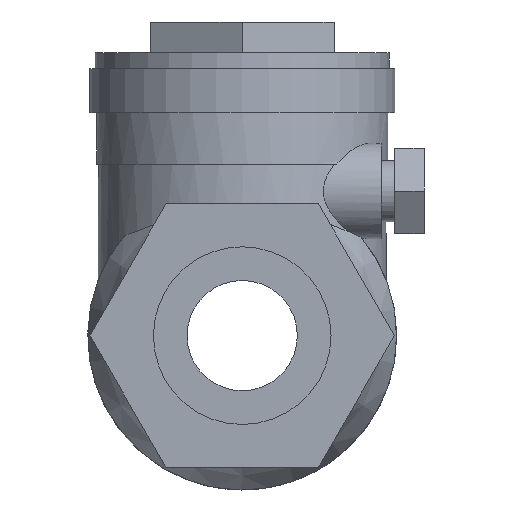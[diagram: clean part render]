
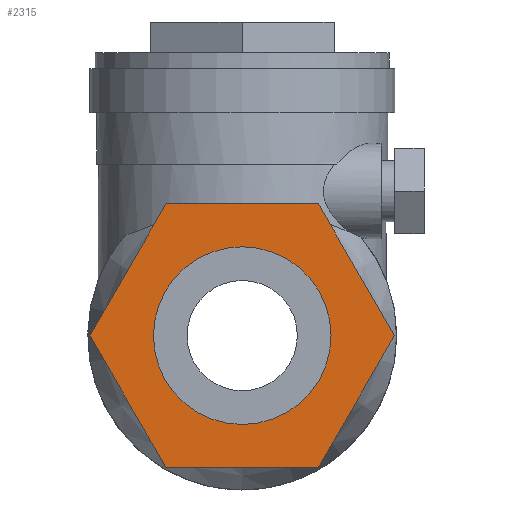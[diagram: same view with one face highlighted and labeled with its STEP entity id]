
A CAD part, left-side view. The second image highlights one B-rep face of the part: STEP entity #2315.
In plain terms, the highlighted planar face has unit normal (-1, 0, 0).
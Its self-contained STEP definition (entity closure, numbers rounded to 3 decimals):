
#1423 = CYLINDRICAL_SURFACE('',#1424,0.363);
#1424 = AXIS2_PLACEMENT_3D('',#1425,#1426,#1427);
#1425 = CARTESIAN_POINT('',(0.,0.,0.));
#1426 = DIRECTION('',(1.,0.,0.));
#1427 = DIRECTION('',(0.,-1.,0.));
#1448 = VERTEX_POINT('',#1449);
#1449 = CARTESIAN_POINT('',(0.,-0.363,0.));
#1469 = EDGE_CURVE('',#1448,#1448,#1470,.T.);
#1470 = SURFACE_CURVE('',#1471,(#1476,#1483),.PCURVE_S1.);
#1471 = CIRCLE('',#1472,0.363);
#1472 = AXIS2_PLACEMENT_3D('',#1473,#1474,#1475);
#1473 = CARTESIAN_POINT('',(0.,0.,0.));
#1474 = DIRECTION('',(1.,0.,0.));
#1475 = DIRECTION('',(0.,-1.,0.));
#1476 = PCURVE('',#1423,#1477);
#1477 = DEFINITIONAL_REPRESENTATION('',(#1478),#1482);
#1478 = LINE('',#1479,#1480);
#1479 = CARTESIAN_POINT('',(0.,0.));
#1480 = VECTOR('',#1481,1.);
#1481 = DIRECTION('',(1.,0.));
#1482 = ( GEOMETRIC_REPRESENTATION_CONTEXT(2) 
PARAMETRIC_REPRESENTATION_CONTEXT() REPRESENTATION_CONTEXT('2D SPACE',''
  ) );
#1483 = PCURVE('',#1484,#1489);
#1484 = PLANE('',#1485);
#1485 = AXIS2_PLACEMENT_3D('',#1486,#1487,#1488);
#1486 = CARTESIAN_POINT('',(0.,0.,0.)
  );
#1487 = DIRECTION('',(1.,0.,0.));
#1488 = DIRECTION('',(0.,0.,-1.));
#1489 = DEFINITIONAL_REPRESENTATION('',(#1490),#1494);
#1490 = CIRCLE('',#1491,0.363);
#1491 = AXIS2_PLACEMENT_2D('',#1492,#1493);
#1492 = CARTESIAN_POINT('',(0.,0.));
#1493 = DIRECTION('',(0.,-1.));
#1494 = ( GEOMETRIC_REPRESENTATION_CONTEXT(2) 
PARAMETRIC_REPRESENTATION_CONTEXT() REPRESENTATION_CONTEXT('2D SPACE',''
  ) );
#1869 = PLANE('',#1870);
#1870 = AXIS2_PLACEMENT_3D('',#1871,#1872,#1873);
#1871 = CARTESIAN_POINT('',(0.,-0.466,0.269));
#1872 = DIRECTION('',(0.,-0.866,0.5));
#1873 = DIRECTION('',(0.,-0.5,-0.866));
#1897 = PLANE('',#1898);
#1898 = AXIS2_PLACEMENT_3D('',#1899,#1900,#1901);
#1899 = CARTESIAN_POINT('',(0.,-0.466,-0.269));
#1900 = DIRECTION('',(0.,-0.866,-0.5));
#1901 = DIRECTION('',(0.,0.5,-0.866));
#1925 = PLANE('',#1926);
#1926 = AXIS2_PLACEMENT_3D('',#1927,#1928,#1929);
#1927 = CARTESIAN_POINT('',(0.,0.,-0.538));
#1928 = DIRECTION('',(0.,0.,-1.));
#1929 = DIRECTION('',(0.,1.,0.));
#1953 = PLANE('',#1954);
#1954 = AXIS2_PLACEMENT_3D('',#1955,#1956,#1957);
#1955 = CARTESIAN_POINT('',(0.,0.466,-0.269));
#1956 = DIRECTION('',(0.,0.866,-0.5));
#1957 = DIRECTION('',(0.,0.5,0.866));
#1981 = PLANE('',#1982);
#1982 = AXIS2_PLACEMENT_3D('',#1983,#1984,#1985);
#1983 = CARTESIAN_POINT('',(0.,0.466,0.269));
#1984 = DIRECTION('',(0.,0.866,0.5));
#1985 = DIRECTION('',(0.,-0.5,0.866));
#2007 = PLANE('',#2008);
#2008 = AXIS2_PLACEMENT_3D('',#2009,#2010,#2011);
#2009 = CARTESIAN_POINT('',(0.,0.,0.538));
#2010 = DIRECTION('',(0.,0.,1.));
#2011 = DIRECTION('',(0.,-1.,0.));
#2027 = VERTEX_POINT('',#2028);
#2028 = CARTESIAN_POINT('',(0.,-0.311,0.538));
#2049 = EDGE_CURVE('',#2050,#2027,#2052,.T.);
#2050 = VERTEX_POINT('',#2051);
#2051 = CARTESIAN_POINT('',(0.,-0.621,0.));
#2052 = SURFACE_CURVE('',#2053,(#2057,#2064),.PCURVE_S1.);
#2053 = LINE('',#2054,#2055);
#2054 = CARTESIAN_POINT('',(0.,-0.621,0.));
#2055 = VECTOR('',#2056,1.);
#2056 = DIRECTION('',(0.,0.5,0.866));
#2057 = PCURVE('',#1869,#2058);
#2058 = DEFINITIONAL_REPRESENTATION('',(#2059),#2063);
#2059 = LINE('',#2060,#2061);
#2060 = CARTESIAN_POINT('',(0.311,0.));
#2061 = VECTOR('',#2062,1.);
#2062 = DIRECTION('',(-1.,0.));
#2063 = ( GEOMETRIC_REPRESENTATION_CONTEXT(2) 
PARAMETRIC_REPRESENTATION_CONTEXT() REPRESENTATION_CONTEXT('2D SPACE',''
  ) );
#2064 = PCURVE('',#1484,#2065);
#2065 = DEFINITIONAL_REPRESENTATION('',(#2066),#2070);
#2066 = LINE('',#2067,#2068);
#2067 = CARTESIAN_POINT('',(0.,-0.621));
#2068 = VECTOR('',#2069,1.);
#2069 = DIRECTION('',(-0.866,0.5));
#2070 = ( GEOMETRIC_REPRESENTATION_CONTEXT(2) 
PARAMETRIC_REPRESENTATION_CONTEXT() REPRESENTATION_CONTEXT('2D SPACE',''
  ) );
#2098 = VERTEX_POINT('',#2099);
#2099 = CARTESIAN_POINT('',(0.,0.311,0.538));
#2120 = EDGE_CURVE('',#2027,#2098,#2121,.T.);
#2121 = SURFACE_CURVE('',#2122,(#2126,#2133),.PCURVE_S1.);
#2122 = LINE('',#2123,#2124);
#2123 = CARTESIAN_POINT('',(0.,-0.311,0.538));
#2124 = VECTOR('',#2125,1.);
#2125 = DIRECTION('',(0.,1.,0.));
#2126 = PCURVE('',#2007,#2127);
#2127 = DEFINITIONAL_REPRESENTATION('',(#2128),#2132);
#2128 = LINE('',#2129,#2130);
#2129 = CARTESIAN_POINT('',(0.311,0.));
#2130 = VECTOR('',#2131,1.);
#2131 = DIRECTION('',(-1.,0.));
#2132 = ( GEOMETRIC_REPRESENTATION_CONTEXT(2) 
PARAMETRIC_REPRESENTATION_CONTEXT() REPRESENTATION_CONTEXT('2D SPACE',''
  ) );
#2133 = PCURVE('',#1484,#2134);
#2134 = DEFINITIONAL_REPRESENTATION('',(#2135),#2139);
#2135 = LINE('',#2136,#2137);
#2136 = CARTESIAN_POINT('',(-0.538,-0.311));
#2137 = VECTOR('',#2138,1.);
#2138 = DIRECTION('',(0.,1.));
#2139 = ( GEOMETRIC_REPRESENTATION_CONTEXT(2) 
PARAMETRIC_REPRESENTATION_CONTEXT() REPRESENTATION_CONTEXT('2D SPACE',''
  ) );
#2147 = VERTEX_POINT('',#2148);
#2148 = CARTESIAN_POINT('',(0.,0.621,0.));
#2169 = EDGE_CURVE('',#2098,#2147,#2170,.T.);
#2170 = SURFACE_CURVE('',#2171,(#2175,#2182),.PCURVE_S1.);
#2171 = LINE('',#2172,#2173);
#2172 = CARTESIAN_POINT('',(0.,0.311,0.538));
#2173 = VECTOR('',#2174,1.);
#2174 = DIRECTION('',(0.,0.5,-0.866));
#2175 = PCURVE('',#1981,#2176);
#2176 = DEFINITIONAL_REPRESENTATION('',(#2177),#2181);
#2177 = LINE('',#2178,#2179);
#2178 = CARTESIAN_POINT('',(0.311,0.));
#2179 = VECTOR('',#2180,1.);
#2180 = DIRECTION('',(-1.,0.));
#2181 = ( GEOMETRIC_REPRESENTATION_CONTEXT(2) 
PARAMETRIC_REPRESENTATION_CONTEXT() REPRESENTATION_CONTEXT('2D SPACE',''
  ) );
#2182 = PCURVE('',#1484,#2183);
#2183 = DEFINITIONAL_REPRESENTATION('',(#2184),#2188);
#2184 = LINE('',#2185,#2186);
#2185 = CARTESIAN_POINT('',(-0.538,0.311));
#2186 = VECTOR('',#2187,1.);
#2187 = DIRECTION('',(0.866,0.5));
#2188 = ( GEOMETRIC_REPRESENTATION_CONTEXT(2) 
PARAMETRIC_REPRESENTATION_CONTEXT() REPRESENTATION_CONTEXT('2D SPACE',''
  ) );
#2196 = VERTEX_POINT('',#2197);
#2197 = CARTESIAN_POINT('',(0.,0.311,-0.538));
#2218 = EDGE_CURVE('',#2147,#2196,#2219,.T.);
#2219 = SURFACE_CURVE('',#2220,(#2224,#2231),.PCURVE_S1.);
#2220 = LINE('',#2221,#2222);
#2221 = CARTESIAN_POINT('',(0.,0.621,0.));
#2222 = VECTOR('',#2223,1.);
#2223 = DIRECTION('',(0.,-0.5,-0.866));
#2224 = PCURVE('',#1953,#2225);
#2225 = DEFINITIONAL_REPRESENTATION('',(#2226),#2230);
#2226 = LINE('',#2227,#2228);
#2227 = CARTESIAN_POINT('',(0.311,0.));
#2228 = VECTOR('',#2229,1.);
#2229 = DIRECTION('',(-1.,0.));
#2230 = ( GEOMETRIC_REPRESENTATION_CONTEXT(2) 
PARAMETRIC_REPRESENTATION_CONTEXT() REPRESENTATION_CONTEXT('2D SPACE',''
  ) );
#2231 = PCURVE('',#1484,#2232);
#2232 = DEFINITIONAL_REPRESENTATION('',(#2233),#2237);
#2233 = LINE('',#2234,#2235);
#2234 = CARTESIAN_POINT('',(0.,0.621));
#2235 = VECTOR('',#2236,1.);
#2236 = DIRECTION('',(0.866,-0.5));
#2237 = ( GEOMETRIC_REPRESENTATION_CONTEXT(2) 
PARAMETRIC_REPRESENTATION_CONTEXT() REPRESENTATION_CONTEXT('2D SPACE',''
  ) );
#2245 = VERTEX_POINT('',#2246);
#2246 = CARTESIAN_POINT('',(0.,-0.311,-0.538));
#2267 = EDGE_CURVE('',#2196,#2245,#2268,.T.);
#2268 = SURFACE_CURVE('',#2269,(#2273,#2280),.PCURVE_S1.);
#2269 = LINE('',#2270,#2271);
#2270 = CARTESIAN_POINT('',(0.,0.311,-0.538));
#2271 = VECTOR('',#2272,1.);
#2272 = DIRECTION('',(0.,-1.,0.));
#2273 = PCURVE('',#1925,#2274);
#2274 = DEFINITIONAL_REPRESENTATION('',(#2275),#2279);
#2275 = LINE('',#2276,#2277);
#2276 = CARTESIAN_POINT('',(0.311,0.));
#2277 = VECTOR('',#2278,1.);
#2278 = DIRECTION('',(-1.,0.));
#2279 = ( GEOMETRIC_REPRESENTATION_CONTEXT(2) 
PARAMETRIC_REPRESENTATION_CONTEXT() REPRESENTATION_CONTEXT('2D SPACE',''
  ) );
#2280 = PCURVE('',#1484,#2281);
#2281 = DEFINITIONAL_REPRESENTATION('',(#2282),#2286);
#2282 = LINE('',#2283,#2284);
#2283 = CARTESIAN_POINT('',(0.538,0.311));
#2284 = VECTOR('',#2285,1.);
#2285 = DIRECTION('',(0.,-1.));
#2286 = ( GEOMETRIC_REPRESENTATION_CONTEXT(2) 
PARAMETRIC_REPRESENTATION_CONTEXT() REPRESENTATION_CONTEXT('2D SPACE',''
  ) );
#2294 = EDGE_CURVE('',#2245,#2050,#2295,.T.);
#2295 = SURFACE_CURVE('',#2296,(#2300,#2307),.PCURVE_S1.);
#2296 = LINE('',#2297,#2298);
#2297 = CARTESIAN_POINT('',(0.,-0.311,-0.538));
#2298 = VECTOR('',#2299,1.);
#2299 = DIRECTION('',(0.,-0.5,0.866));
#2300 = PCURVE('',#1897,#2301);
#2301 = DEFINITIONAL_REPRESENTATION('',(#2302),#2306);
#2302 = LINE('',#2303,#2304);
#2303 = CARTESIAN_POINT('',(0.311,0.));
#2304 = VECTOR('',#2305,1.);
#2305 = DIRECTION('',(-1.,0.));
#2306 = ( GEOMETRIC_REPRESENTATION_CONTEXT(2) 
PARAMETRIC_REPRESENTATION_CONTEXT() REPRESENTATION_CONTEXT('2D SPACE',''
  ) );
#2307 = PCURVE('',#1484,#2308);
#2308 = DEFINITIONAL_REPRESENTATION('',(#2309),#2313);
#2309 = LINE('',#2310,#2311);
#2310 = CARTESIAN_POINT('',(0.538,-0.311));
#2311 = VECTOR('',#2312,1.);
#2312 = DIRECTION('',(-0.866,-0.5));
#2313 = ( GEOMETRIC_REPRESENTATION_CONTEXT(2) 
PARAMETRIC_REPRESENTATION_CONTEXT() REPRESENTATION_CONTEXT('2D SPACE',''
  ) );
#2315 = ADVANCED_FACE('',(#2316,#2319),#1484,.F.);
#2316 = FACE_BOUND('',#2317,.T.);
#2317 = EDGE_LOOP('',(#2318));
#2318 = ORIENTED_EDGE('',*,*,#1469,.T.);
#2319 = FACE_BOUND('',#2320,.T.);
#2320 = EDGE_LOOP('',(#2321,#2322,#2323,#2324,#2325,#2326));
#2321 = ORIENTED_EDGE('',*,*,#2294,.T.);
#2322 = ORIENTED_EDGE('',*,*,#2049,.T.);
#2323 = ORIENTED_EDGE('',*,*,#2120,.T.);
#2324 = ORIENTED_EDGE('',*,*,#2169,.T.);
#2325 = ORIENTED_EDGE('',*,*,#2218,.T.);
#2326 = ORIENTED_EDGE('',*,*,#2267,.T.);
